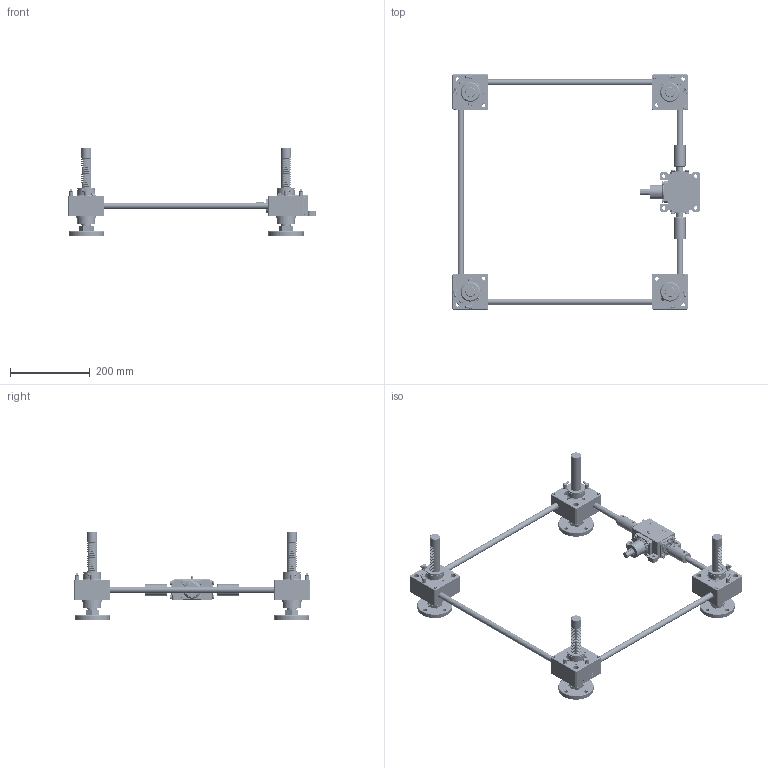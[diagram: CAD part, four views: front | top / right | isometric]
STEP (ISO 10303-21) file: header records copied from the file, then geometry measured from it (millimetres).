
FILE_DESCRIPTION(('STEP AP203'),'1');
FILE_NAME('SPB500F-500x500-250-100ST.stp','2022-06-15T07:24:57',(' '),(' '),'Spatial InterOp 3D',' ',' ');
FILE_SCHEMA(('CONFIG_CONTROL_DESIGN'));
Length unit declared in the file: millimetre
Products named in the file (115): SPB500F-500x500-250-100ST; ASSEM1; Flange.1-Part; Flange.1; Joint.1; Nut.1; Flange.2-Part; Flange.2; Joint.2; Nut.2; Flange.3-Part; Flange.3; Joint.3; Nut.3; Flange.4-Part; Flange.4; Joint.4; Nut.4; Body.1-Part; Bolt; Nipple; Gear Box.1(Upper); Gear Box.1(Lower); LowerGearBox.1; RJ05-4SCJ-610X600-100ST_CAP; LABEL-B.1; ___; 파트18; __; Body.2-Part; Gear Box.2(Upper); Gear Box.2(Lower); Symmetry of LowerGearBox.1.1; Body.3-Part; Gear Box.3(Upper); Gear Box.3(Lower); Symmetry of Symmetry of LowerGearBox.1.2.1; Body.4-Part; Gear Box.4(Upper); Gear Box.4(Lower)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
Assembly tree (115 placements, depth 6):
  SPB500F-500x500-250-100ST
    ASSEM1
    (unnamed)
    (unnamed)
    (unnamed)
    Flange.1-Part
      Flange.1
      Joint.1
      Nut.1
    Flange.2-Part
      Flange.2
      Joint.2
      Nut.2
    Flange.3-Part
      Flange.3
      Joint.3
      Nut.3
    Flange.4-Part
      Flange.4
      Joint.4
      Nut.4
    Body.1-Part
      Bolt
      Bolt
      Bolt
      Bolt
      Bolt
      Nipple
      Nipple
      Gear Box.1(Upper)
      Gear Box.1(Lower)
        LowerGearBox.1
      __
        ___
          RJ05-4SCJ-610X600-100ST_CAP
            LABEL-B.1
          파트18
    Body.2-Part
      Bolt
      Bolt
      Bolt
      Bolt
      Bolt
      Nipple
      Nipple
      Gear Box.2(Upper)
      Gear Box.2(Lower)
        Symmetry of LowerGearBox.1.1
      __
        ___
          RJ05-4SCJ-610X600-100ST_CAP
            LABEL-B.1
          파트18
    Body.3-Part
      Bolt
      Bolt
      Bolt
      Bolt
      Bolt
      Nipple
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Bounding box: 619.77 x 590.44 x 220 mm (x, y, z)
Volume: 2386091.7 mm3; surface area: 780901.8 mm2
Topology: 119 solids, 119 shells, 11405 faces, 32112 edges, 21267 vertices
Faces by surface type: plane 10079, cylinder 744, cone 221, revolution 175, extrusion 161, bspline 20, sphere 4, torus 1
Full cylindrical faces by diameter (mm): 3.113 x1, 4.8 x8, 6 x90, 6.6 x1, 7 x20, 8.5 x4, 9 x16, 9.5 x16, 9.886 x8, 10 x12, 10.5 x40, 13.5 x8, 15 x8, 17 x4, 18 x1, 22 x4, 23 x4, 25 x13, 26 x8, 27 x4, 28 x8, 28.3 x8, 29 x2, 29.5 x8, 30 x2, 34 x2, 35 x3, 36 x1, 37 x4, 38 x4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
Entity records: 368896 total; most frequent: CARTESIAN_POINT 72601, ORIENTED_EDGE 61960, DIRECTION 55244, EDGE_CURVE 30980, VECTOR 27991, LINE 27830, VERTEX_POINT 20882, AXIS2_PLACEMENT_3D 13539
